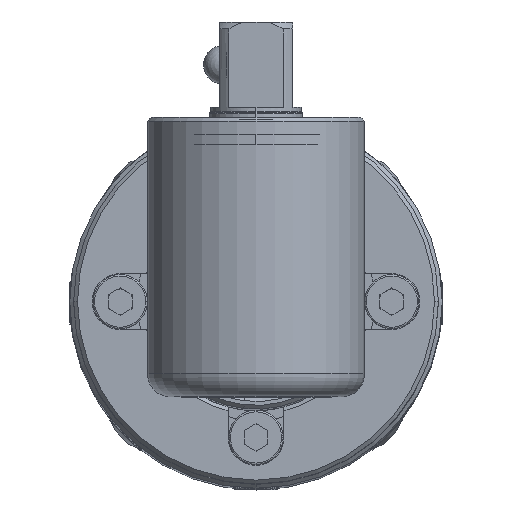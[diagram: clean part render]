
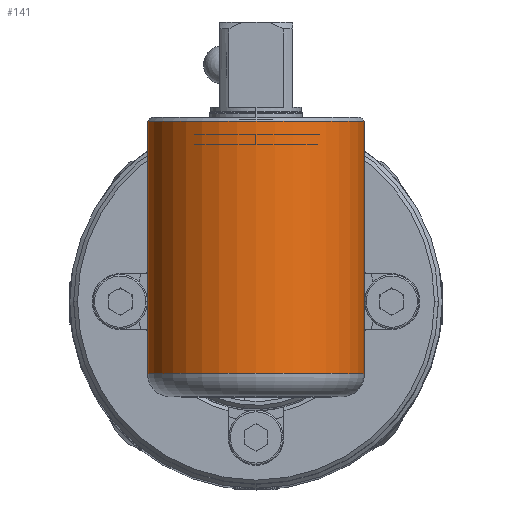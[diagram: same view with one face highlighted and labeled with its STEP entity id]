
A CAD part, top view. The second image highlights one B-rep face of the part: STEP entity #141.
In plain terms, the highlighted cylindrical face has radius 14 mm (diameter 28 mm), a partial arc.
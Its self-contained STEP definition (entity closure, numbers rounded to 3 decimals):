
#141 = ADVANCED_FACE ( 'NONE', ( #11359 ), #16632, .T. ) ;
#587 = DIRECTION ( 'NONE',  ( 0., -1., 0. ) ) ;
#2568 = AXIS2_PLACEMENT_3D ( 'NONE', #9744, #4652, #9830 ) ;
#2614 = CARTESIAN_POINT ( 'NONE',  ( -14., 44.914, 243.942 ) ) ;
#2805 = DIRECTION ( 'NONE',  ( 0., -1., 0. ) ) ;
#2919 = ORIENTED_EDGE ( 'NONE', *, *, #11217, .T. ) ;
#3146 = VECTOR ( 'NONE', #587, 1000. ) ;
#3166 = CARTESIAN_POINT ( 'NONE',  ( -14., 41.914, 243.942 ) ) ;
#4086 = EDGE_CURVE ( 'NONE', #15210, #15301, #6681, .T. ) ;
#4652 = DIRECTION ( 'NONE',  ( 0., -1., 0. ) ) ;
#4795 = AXIS2_PLACEMENT_3D ( 'NONE', #12132, #2805, #16189 ) ;
#4963 = CARTESIAN_POINT ( 'NONE',  ( 14., 41.914, 243.942 ) ) ;
#5339 = ORIENTED_EDGE ( 'NONE', *, *, #9790, .T. ) ;
#6184 = CARTESIAN_POINT ( 'NONE',  ( 14., 77.414, 243.942 ) ) ;
#6681 = CIRCLE ( 'NONE', #11374, 14. ) ;
#8602 = ORIENTED_EDGE ( 'NONE', *, *, #4086, .T. ) ;
#9744 = CARTESIAN_POINT ( 'NONE',  ( 0., 41.914, 243.942 ) ) ;
#9790 = EDGE_CURVE ( 'NONE', #15995, #15210, #11104, .T. ) ;
#9830 = DIRECTION ( 'NONE',  ( -1., 0., 0. ) ) ;
#10195 = CARTESIAN_POINT ( 'NONE',  ( 0., 44.914, 243.942 ) ) ;
#11104 = LINE ( 'NONE', #3166, #3146 ) ;
#11217 = EDGE_CURVE ( 'NONE', #11518, #15995, #13707, .T. ) ;
#11330 = DIRECTION ( 'NONE',  ( 0., -1., 0. ) ) ;
#11359 = FACE_OUTER_BOUND ( 'NONE', #13387, .T. ) ;
#11374 = AXIS2_PLACEMENT_3D ( 'NONE', #10195, #15448, #16841 ) ;
#11518 = VERTEX_POINT ( 'NONE', #6184 ) ;
#11789 = VECTOR ( 'NONE', #11330, 1000. ) ;
#12132 = CARTESIAN_POINT ( 'NONE',  ( 0., 77.414, 243.942 ) ) ;
#12554 = CARTESIAN_POINT ( 'NONE',  ( -14., 77.414, 243.942 ) ) ;
#13387 = EDGE_LOOP ( 'NONE', ( #16224, #2919, #5339, #8602 ) ) ;
#13707 = CIRCLE ( 'NONE', #4795, 14. ) ;
#13896 = CARTESIAN_POINT ( 'NONE',  ( 14., 44.914, 243.942 ) ) ;
#14259 = LINE ( 'NONE', #4963, #11789 ) ;
#15210 = VERTEX_POINT ( 'NONE', #2614 ) ;
#15301 = VERTEX_POINT ( 'NONE', #13896 ) ;
#15448 = DIRECTION ( 'NONE',  ( 0., 1., 0. ) ) ;
#15995 = VERTEX_POINT ( 'NONE', #12554 ) ;
#16047 = EDGE_CURVE ( 'NONE', #11518, #15301, #14259, .T. ) ;
#16189 = DIRECTION ( 'NONE',  ( -1., 0., 0. ) ) ;
#16224 = ORIENTED_EDGE ( 'NONE', *, *, #16047, .F. ) ;
#16632 = CYLINDRICAL_SURFACE ( 'NONE', #2568, 14. ) ;
#16841 = DIRECTION ( 'NONE',  ( 1., 0., 0. ) ) ;
